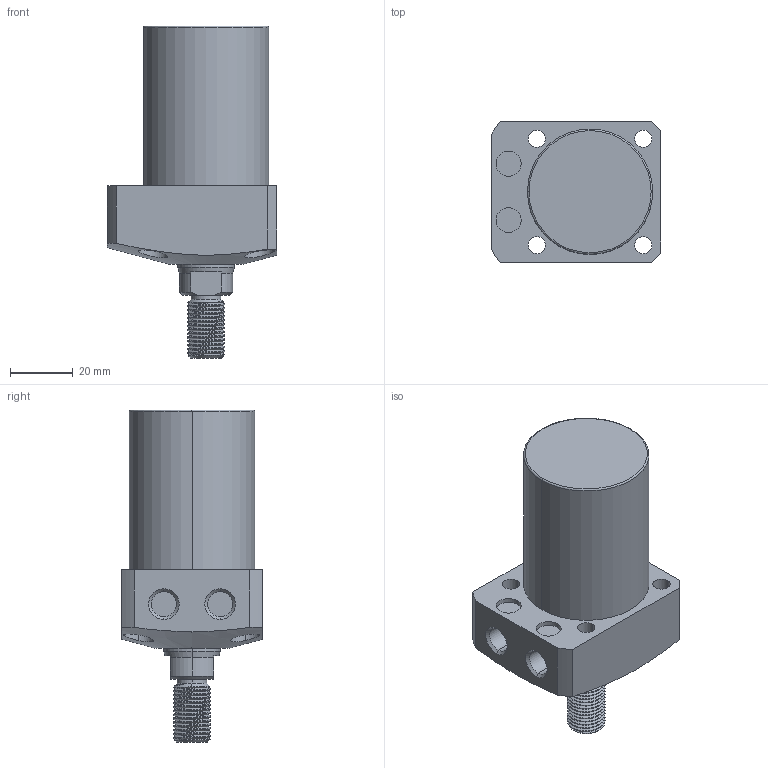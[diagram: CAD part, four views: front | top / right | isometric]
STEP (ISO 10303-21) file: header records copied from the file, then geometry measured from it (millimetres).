
FILE_DESCRIPTION (( 'STEP AP203' ), '1' );
FILE_NAME ('CLL-040CT-040.STEP', '2020-01-08T09:00:48', ( '' ), ( '' ), 'SwSTEP 2.0', 'SolidWorks 2015', '' );
FILE_SCHEMA (( 'CONFIG_CONTROL_DESIGN' ));
Length unit declared in the file: millimetre
Products named in the file (1): CLL-040CT-040
Bounding box: 54 x 45 x 106 mm (x, y, z)
Volume: 118459.9 mm3; surface area: 19216.7 mm2
Topology: 1 solids, 1 shells, 106 faces, 267 edges, 174 vertices
Faces by surface type: cylinder 63, plane 23, cone 16, torus 2, bspline 2
Entity records: 5205 total; most frequent: CARTESIAN_POINT 2723, ORIENTED_EDGE 534, DIRECTION 472, EDGE_CURVE 267, AXIS2_PLACEMENT_3D 189, VERTEX_POINT 174, EDGE_LOOP 125, FACE_OUTER_BOUND 106
